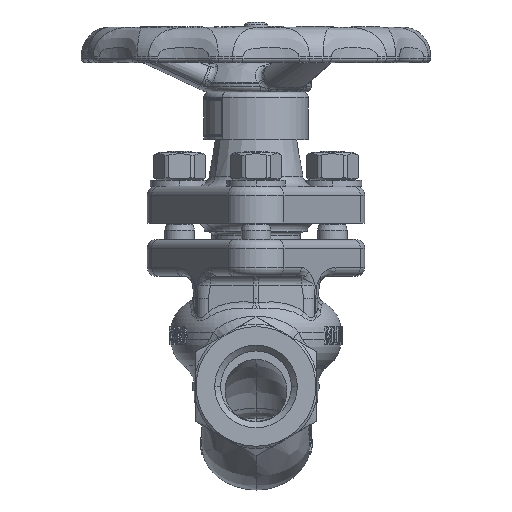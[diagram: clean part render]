
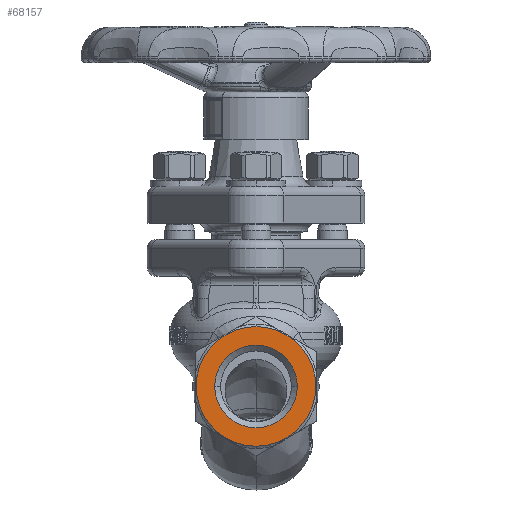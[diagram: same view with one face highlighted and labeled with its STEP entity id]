
A CAD part, left-side view. The second image highlights one B-rep face of the part: STEP entity #68157.
In plain terms, the highlighted planar face has unit normal (-1, 0, 0).
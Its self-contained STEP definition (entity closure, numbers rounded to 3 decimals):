
#19008=CARTESIAN_POINT('',(-60.,0.,0.));
#19009=DIRECTION('',(-1.,0.,0.));
#19010=DIRECTION('',(0.,0.,-1.));
#19011=AXIS2_PLACEMENT_3D('',#19008,#19009,#19010);
#19069=CARTESIAN_POINT('',(-60.,0.,0.));
#19070=DIRECTION('',(1.,0.,0.));
#19071=DIRECTION('',(0.,-1.,0.));
#19072=AXIS2_PLACEMENT_3D('',#19069,#19070,#19071);
#19074=CARTESIAN_POINT('',(-60.,0.,0.));
#19075=DIRECTION('',(1.,0.,0.));
#19076=DIRECTION('',(0.,1.,0.));
#19077=AXIS2_PLACEMENT_3D('',#19074,#19075,#19076);
#19079=CARTESIAN_POINT('',(-60.,0.,0.));
#19080=DIRECTION('',(-1.,0.,0.));
#19081=DIRECTION('',(0.,0.,1.));
#19082=AXIS2_PLACEMENT_3D('',#19079,#19080,#19081);
#31625=CARTESIAN_POINT('',(-60.,-14.059,0.));
#31626=CARTESIAN_POINT('',(-60.,14.059,0.));
#31627=VERTEX_POINT('',#31625);
#31628=VERTEX_POINT('',#31626);
#33545=CARTESIAN_POINT('',(-60.,0.,-20.356));
#33546=CARTESIAN_POINT('',(-60.,0.,20.356));
#33547=VERTEX_POINT('',#33545);
#33548=VERTEX_POINT('',#33546);
#68141=CARTESIAN_POINT('',(-60.,0.,0.));
#68142=DIRECTION('',(-1.,0.,0.));
#68143=DIRECTION('',(0.,0.,1.));
#68144=AXIS2_PLACEMENT_3D('',#68141,#68142,#68143);
#68145=PLANE('',#68144);
#68146=ORIENTED_EDGE('',*,*,#68122,.F.);
#68148=ORIENTED_EDGE('',*,*,#68147,.F.);
#68149=EDGE_LOOP('',(#68146,#68148));
#68150=FACE_OUTER_BOUND('',#68149,.F.);
#68152=ORIENTED_EDGE('',*,*,#68151,.F.);
#68154=ORIENTED_EDGE('',*,*,#68153,.F.);
#68155=EDGE_LOOP('',(#68152,#68154));
#68156=FACE_BOUND('',#68155,.F.);
#68157=ADVANCED_FACE('',(#68150,#68156),#68145,.T.);
#19012=CIRCLE('',#19011,20.356);
#19073=CIRCLE('',#19072,14.059);
#19078=CIRCLE('',#19077,14.059);
#19083=CIRCLE('',#19082,20.356);
#68122=EDGE_CURVE('',#33547,#33548,#19012,.T.);
#68147=EDGE_CURVE('',#33548,#33547,#19083,.T.);
#68151=EDGE_CURVE('',#31627,#31628,#19073,.T.);
#68153=EDGE_CURVE('',#31628,#31627,#19078,.T.);
